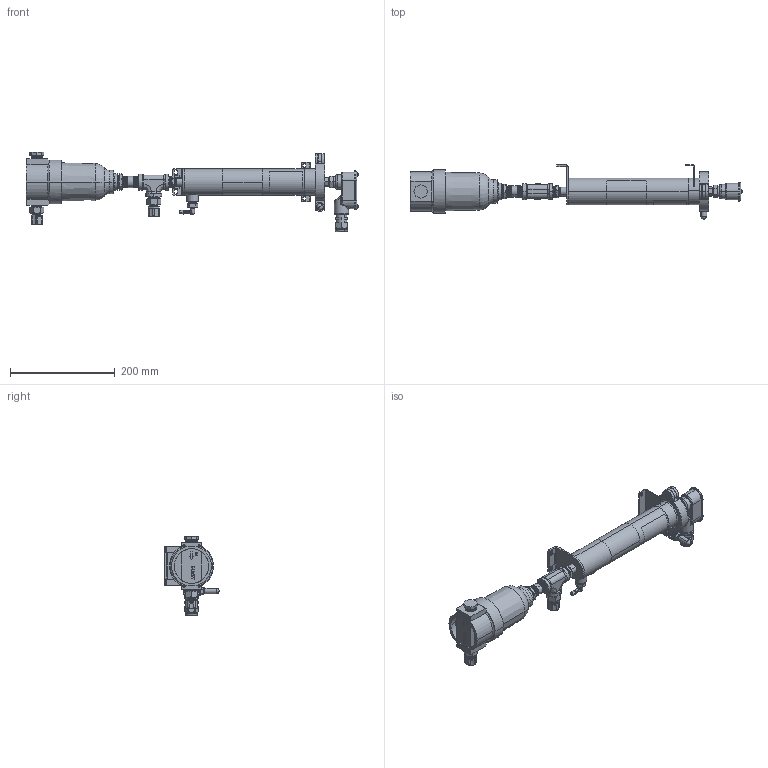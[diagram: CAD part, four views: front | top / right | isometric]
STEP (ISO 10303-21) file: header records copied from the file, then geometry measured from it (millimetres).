
FILE_DESCRIPTION (( 'STEP AP214' ), '1' );
FILE_NAME ('DD-0650-XX.STEP', '2018-07-25T15:04:22', ( '' ), ( '' ), 'SwSTEP 2.0', 'SolidWorks 2017', '' );
FILE_SCHEMA (( 'AUTOMOTIVE_DESIGN' ));
Length unit declared in the file: inch
Products named in the file (1): DD-0650-XX
Bounding box: 633.23 x 103.4 x 152.17 mm (x, y, z)
Surface area: 222261.1 mm2 (no closed solid volume)
Topology: 0 solids, 54 shells, 1055 faces, 3226 edges, 2214 vertices
Faces by surface type: cone 332, cylinder 319, plane 256, bspline 78, torus 67, sphere 3
Entity records: 100271 total; most frequent: CARTESIAN_POINT 60193, ORIENTED_EDGE 5670, DIRECTION 4754, EDGE_CURVE 3224, VERTEX_POINT 2214, AXIS2_PLACEMENT_3D 1801, LINE 1152, VECTOR 1152
